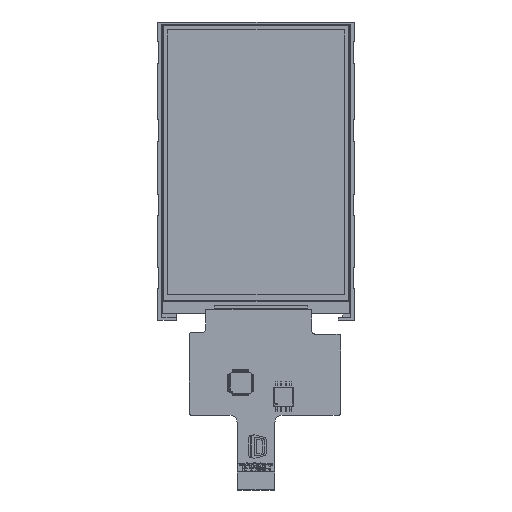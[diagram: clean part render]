
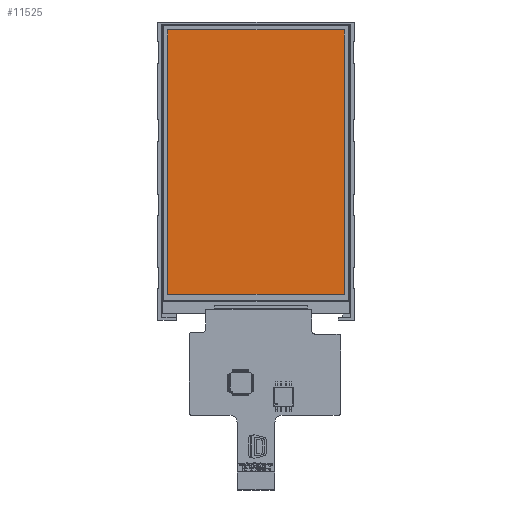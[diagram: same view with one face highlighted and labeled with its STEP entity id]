
A CAD part, top view. The second image highlights one B-rep face of the part: STEP entity #11525.
In plain terms, the highlighted planar face has unit normal (0, 0, 1).
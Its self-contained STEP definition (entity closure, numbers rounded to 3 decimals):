
#268 = DIRECTION ( 'NONE',  ( 1., 0., 0. ) ) ;
#1954 = LINE ( 'NONE', #14537, #32143 ) ;
#4221 = VERTEX_POINT ( 'NONE', #47509 ) ;
#5520 = DIRECTION ( 'NONE',  ( 0., -1., 0. ) ) ;
#6710 = VERTEX_POINT ( 'NONE', #43450 ) ;
#7464 = VERTEX_POINT ( 'NONE', #41807 ) ;
#8186 = DIRECTION ( 'NONE',  ( -1., 0., 0. ) ) ;
#9427 = ORIENTED_EDGE ( 'NONE', *, *, #55782, .F. ) ;
#9491 = EDGE_CURVE ( 'NONE', #7464, #6710, #48505, .T. ) ;
#10342 = VECTOR ( 'NONE', #18195, 1000. ) ;
#11525 = ADVANCED_FACE ( 'NONE', ( #51329 ), #29220, .T. ) ;
#12123 = CARTESIAN_POINT ( 'NONE',  ( 24.48, 39.2, 2.05 ) ) ;
#14537 = CARTESIAN_POINT ( 'NONE',  ( 0., 39.2, 2.05 ) ) ;
#18195 = DIRECTION ( 'NONE',  ( 0., 1., 0. ) ) ;
#23059 = ORIENTED_EDGE ( 'NONE', *, *, #9491, .F. ) ;
#23073 = EDGE_CURVE ( 'NONE', #4221, #7464, #53115, .T. ) ;
#26055 = CARTESIAN_POINT ( 'NONE',  ( 0., -34.24, 2.05 ) ) ;
#28033 = CARTESIAN_POINT ( 'NONE',  ( 24.48, 0., 2.05 ) ) ;
#29220 = PLANE ( 'NONE',  #38246 ) ;
#31215 = CARTESIAN_POINT ( 'NONE',  ( 0., 0., 2.05 ) ) ;
#31490 = DIRECTION ( 'NONE',  ( 0., 0., 1. ) ) ;
#32143 = VECTOR ( 'NONE', #55048, 1000. ) ;
#32337 = ORIENTED_EDGE ( 'NONE', *, *, #23073, .F. ) ;
#36496 = VECTOR ( 'NONE', #8186, 1000. ) ;
#38246 = AXIS2_PLACEMENT_3D ( 'NONE', #31215, #31490, #268 ) ;
#39499 = CARTESIAN_POINT ( 'NONE',  ( -24.48, 0., 2.05 ) ) ;
#40318 = VECTOR ( 'NONE', #5520, 1000. ) ;
#41807 = CARTESIAN_POINT ( 'NONE',  ( -24.48, -34.24, 2.05 ) ) ;
#43450 = CARTESIAN_POINT ( 'NONE',  ( -24.48, 39.2, 2.05 ) ) ;
#46536 = VERTEX_POINT ( 'NONE', #12123 ) ;
#47509 = CARTESIAN_POINT ( 'NONE',  ( 24.48, -34.24, 2.05 ) ) ;
#48505 = LINE ( 'NONE', #39499, #10342 ) ;
#51329 = FACE_OUTER_BOUND ( 'NONE', #54213, .T. ) ;
#53115 = LINE ( 'NONE', #26055, #36496 ) ;
#54146 = ORIENTED_EDGE ( 'NONE', *, *, #57657, .F. ) ;
#54213 = EDGE_LOOP ( 'NONE', ( #23059, #32337, #9427, #54146 ) ) ;
#54807 = LINE ( 'NONE', #28033, #40318 ) ;
#55048 = DIRECTION ( 'NONE',  ( 1., 0., 0. ) ) ;
#55782 = EDGE_CURVE ( 'NONE', #46536, #4221, #54807, .T. ) ;
#57657 = EDGE_CURVE ( 'NONE', #6710, #46536, #1954, .T. ) ;
